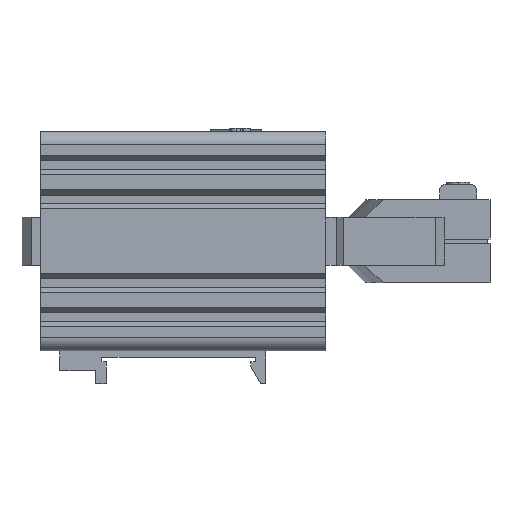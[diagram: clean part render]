
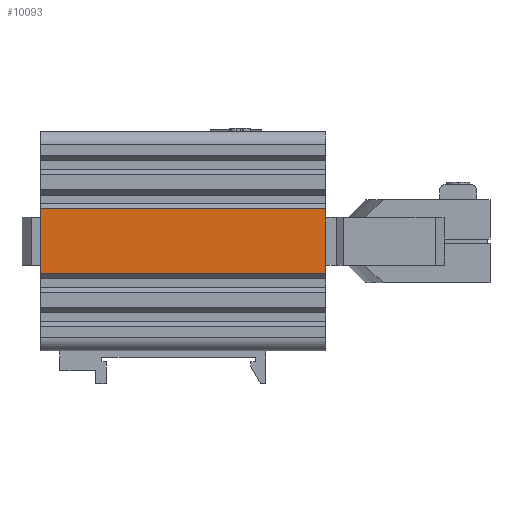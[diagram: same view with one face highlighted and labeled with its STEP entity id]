
A CAD part, left-side view. The second image highlights one B-rep face of the part: STEP entity #10093.
In plain terms, the highlighted planar face has unit normal (-1, 0, 0).
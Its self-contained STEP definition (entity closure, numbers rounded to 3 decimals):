
#590 = PLANE ( 'NONE',  #11504 ) ;
#591 = CARTESIAN_POINT ( 'NONE',  ( 0., -33.5, 0. ) ) ;
#597 = DIRECTION ( 'NONE',  ( -1., 0., 0. ) ) ;
#598 = DIRECTION ( 'NONE',  ( 0., 0., 1. ) ) ;
#2269 = CARTESIAN_POINT ( 'NONE',  ( 0., 31.5, 19.129 ) ) ;
#2303 = CARTESIAN_POINT ( 'NONE',  ( 0., 31.5, 33.871 ) ) ;
#2638 = CARTESIAN_POINT ( 'NONE',  ( 0., -33.5, 33.871 ) ) ;
#2640 = CARTESIAN_POINT ( 'NONE',  ( 0., -33.5, 19.129 ) ) ;
#2759 = CARTESIAN_POINT ( 'NONE',  ( 0., -33.5, 33.871 ) ) ;
#2760 = DIRECTION ( 'NONE',  ( 0., 1., 0. ) ) ;
#4314 = CARTESIAN_POINT ( 'NONE',  ( 0., 31.5, 0. ) ) ;
#4319 = DIRECTION ( 'NONE',  ( 0., 0., 1. ) ) ;
#5617 = EDGE_CURVE ( 'NONE', #12231, #12267, #6115, .T. ) ;
#5784 = EDGE_CURVE ( 'NONE', #12604, #12231, #6286, .T. ) ;
#6115 = LINE ( 'NONE', #4314, #6118 ) ;
#6118 = VECTOR ( 'NONE', #4319, 1000. ) ;
#6286 = LINE ( 'NONE', #7100, #6291 ) ;
#6291 = VECTOR ( 'NONE', #6944, 1000. ) ;
#6944 = DIRECTION ( 'NONE',  ( 0., 1., 0. ) ) ;
#7100 = CARTESIAN_POINT ( 'NONE',  ( 0., -33.5, 19.129 ) ) ;
#8462 = ORIENTED_EDGE ( 'NONE', *, *, #12699, .T. ) ;
#8475 = ORIENTED_EDGE ( 'NONE', *, *, #8676, .T. ) ;
#8488 = ORIENTED_EDGE ( 'NONE', *, *, #5617, .F. ) ;
#8513 = ORIENTED_EDGE ( 'NONE', *, *, #5784, .F. ) ;
#8676 = EDGE_CURVE ( 'NONE', #12604, #12602, #15230, .T. ) ;
#10093 = ADVANCED_FACE ( 'NONE', ( #15554 ), #590, .T. ) ;
#11504 = AXIS2_PLACEMENT_3D ( 'NONE', #591, #597, #598 ) ;
#12231 = VERTEX_POINT ( 'NONE', #2269 ) ;
#12267 = VERTEX_POINT ( 'NONE', #2303 ) ;
#12602 = VERTEX_POINT ( 'NONE', #2638 ) ;
#12604 = VERTEX_POINT ( 'NONE', #2640 ) ;
#12699 = EDGE_CURVE ( 'NONE', #12602, #12267, #15975, .T. ) ;
#13242 = EDGE_LOOP ( 'NONE', ( #8462, #8488, #8513, #8475 ) ) ;
#14316 = CARTESIAN_POINT ( 'NONE',  ( 0., -33.5, 0. ) ) ;
#14318 = DIRECTION ( 'NONE',  ( 0., 0., 1. ) ) ;
#15230 = LINE ( 'NONE', #14316, #15233 ) ;
#15233 = VECTOR ( 'NONE', #14318, 1000. ) ;
#15554 = FACE_OUTER_BOUND ( 'NONE', #13242, .T. ) ;
#15975 = LINE ( 'NONE', #2759, #15978 ) ;
#15978 = VECTOR ( 'NONE', #2760, 1000. ) ;
